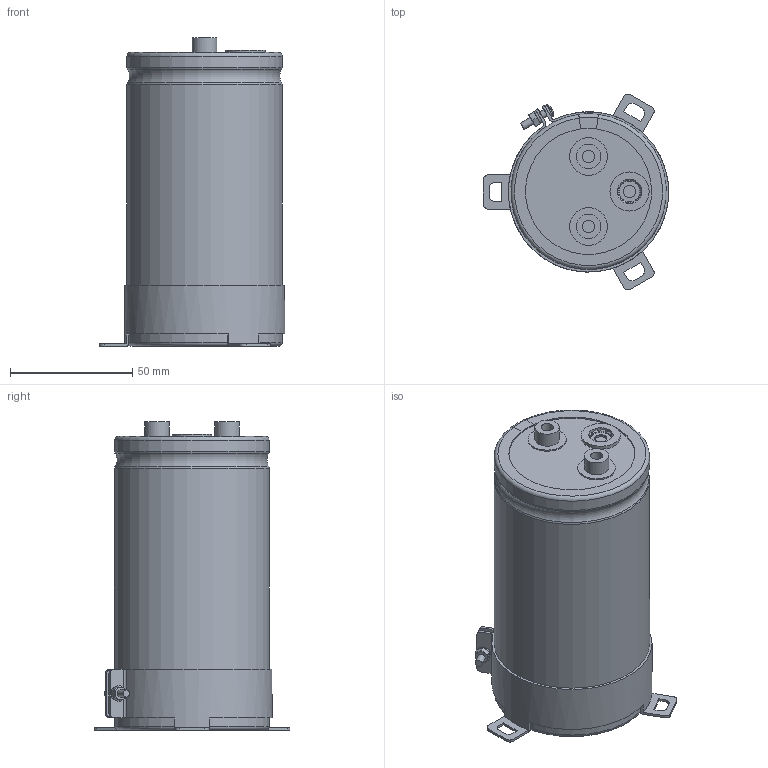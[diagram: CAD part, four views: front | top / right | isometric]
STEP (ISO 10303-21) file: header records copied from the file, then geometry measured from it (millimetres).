
FILE_DESCRIPTION(/* description */ (''),/* implementation_level */ '2;1');
FILE_NAME(/* name */ '63.5x120_Screw.stp',/* time_stamp */ '2017-09-15T19:37:10+09:00',/* author */ (''),/* organization */ (''),/* preprocessor_version */ 'ST-DEVELOPER v16',/* originating_system */ 'SIEMENS PLM Software NX 11.0',/* authorisation */ '');
FILE_SCHEMA (('AUTOMOTIVE_DESIGN { 1 0 10303 214 3 1 1 1 }'));
Length unit declared in the file: millimetre
Products named in the file (1): 63.5x120_Screw
Bounding box: 75.75 x 80.01 x 126 mm (x, y, z)
Volume: 382273.5 mm3; surface area: 92736.3 mm2
Topology: 9 solids, 9 shells, 259 faces, 644 edges, 415 vertices
Faces by surface type: plane 112, cylinder 66, torus 49, cone 31, sphere 1
Full cylindrical faces by diameter (mm): 3 x5, 5 x6, 5.5 x2, 10 x4, 15.5 x2, 16 x1, 62.3 x2
Entity records: 8411 total; most frequent: CARTESIAN_POINT 2059, DIRECTION 1296, ORIENTED_EDGE 1214, EDGE_CURVE 607, AXIS2_PLACEMENT_3D 541, VERTEX_POINT 408, EDGE_LOOP 317, CIRCLE 281
